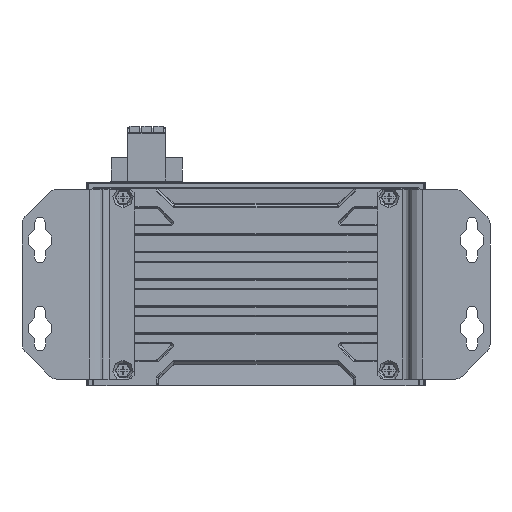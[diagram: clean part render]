
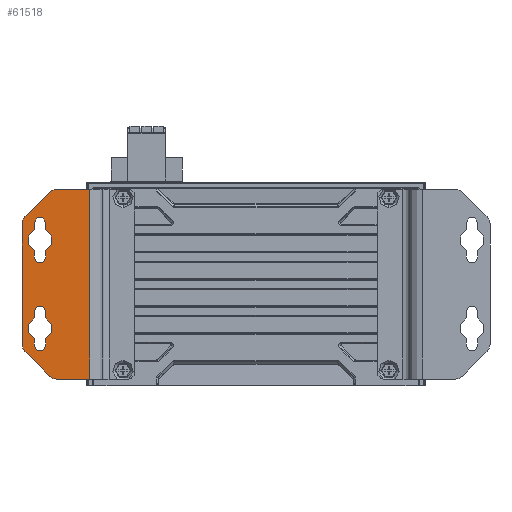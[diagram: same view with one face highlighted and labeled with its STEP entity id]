
A CAD part, front view. The second image highlights one B-rep face of the part: STEP entity #61518.
In plain terms, the highlighted planar face has unit normal (0, -1, 0).
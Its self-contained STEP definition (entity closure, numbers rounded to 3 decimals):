
#49342=DIRECTION('',(0.,0.,1.));
#49343=VECTOR('',#49342,56.);
#49344=CARTESIAN_POINT('',(-49.001,-5.8,-28.));
#49345=LINE('',#49344,#49343);
#49452=DIRECTION('',(1.,0.,0.));
#49453=VECTOR('',#49452,9.757);
#49454=CARTESIAN_POINT('',(-58.757,-5.8,28.));
#49455=LINE('',#49454,#49453);
#49456=CARTESIAN_POINT('',(-58.757,-5.8,-25.));
#49457=DIRECTION('',(0.,1.,0.));
#49458=DIRECTION('',(0.,0.,-1.));
#49459=AXIS2_PLACEMENT_3D('',#49456,#49457,#49458);
#49461=DIRECTION('',(-0.707,0.,0.707));
#49462=VECTOR('',#49461,10.243);
#49463=CARTESIAN_POINT('',(-60.879,-5.8,-27.121));
#49464=LINE('',#49463,#49462);
#49465=CARTESIAN_POINT('',(-66.,-5.8,-17.757));
#49466=DIRECTION('',(0.,1.,0.));
#49467=DIRECTION('',(-0.707,0.,-0.707));
#49468=AXIS2_PLACEMENT_3D('',#49465,#49466,#49467);
#49470=CARTESIAN_POINT('',(-66.,-5.8,17.757));
#49471=DIRECTION('',(0.,1.,0.));
#49472=DIRECTION('',(-1.,0.,0.));
#49473=AXIS2_PLACEMENT_3D('',#49470,#49471,#49472);
#49475=DIRECTION('',(0.707,0.,0.707));
#49476=VECTOR('',#49475,10.243);
#49477=CARTESIAN_POINT('',(-68.121,-5.8,19.879));
#49478=LINE('',#49477,#49476);
#49479=CARTESIAN_POINT('',(-58.757,-5.8,25.));
#49480=DIRECTION('',(0.,1.,0.));
#49481=DIRECTION('',(-0.707,0.,0.707));
#49482=AXIS2_PLACEMENT_3D('',#49479,#49480,#49481);
#49484=CARTESIAN_POINT('',(-63.7,-5.8,8.));
#49485=DIRECTION('',(0.,-1.,0.));
#49486=DIRECTION('',(-1.,0.,0.));
#49487=AXIS2_PLACEMENT_3D('',#49484,#49485,#49486);
#49489=CARTESIAN_POINT('',(-63.7,-5.8,13.));
#49490=DIRECTION('',(0.,-1.,0.));
#49491=DIRECTION('',(0.5,0.,-0.866));
#49492=AXIS2_PLACEMENT_3D('',#49489,#49490,#49491);
#49494=CARTESIAN_POINT('',(-63.7,-5.8,18.));
#49495=DIRECTION('',(0.,-1.,0.));
#49496=DIRECTION('',(1.,0.,0.));
#49497=AXIS2_PLACEMENT_3D('',#49494,#49495,#49496);
#49499=CARTESIAN_POINT('',(-63.7,-5.8,13.));
#49500=DIRECTION('',(0.,-1.,0.));
#49501=DIRECTION('',(-0.5,0.,0.866));
#49502=AXIS2_PLACEMENT_3D('',#49499,#49500,#49501);
#49504=CARTESIAN_POINT('',(-63.7,-5.8,-8.));
#49505=DIRECTION('',(0.,-1.,0.));
#49506=DIRECTION('',(1.,0.,0.));
#49507=AXIS2_PLACEMENT_3D('',#49504,#49505,#49506);
#49509=CARTESIAN_POINT('',(-63.7,-5.8,-13.));
#49510=DIRECTION('',(0.,-1.,0.));
#49511=DIRECTION('',(-0.5,0.,0.866));
#49512=AXIS2_PLACEMENT_3D('',#49509,#49510,#49511);
#49514=CARTESIAN_POINT('',(-63.7,-5.8,-18.));
#49515=DIRECTION('',(0.,-1.,0.));
#49516=DIRECTION('',(-1.,0.,0.));
#49517=AXIS2_PLACEMENT_3D('',#49514,#49515,#49516);
#49519=CARTESIAN_POINT('',(-63.7,-5.8,-13.));
#49520=DIRECTION('',(0.,-1.,0.));
#49521=DIRECTION('',(0.5,0.,-0.866));
#49522=AXIS2_PLACEMENT_3D('',#49519,#49520,#49521);
#49532=DIRECTION('',(-1.,0.,0.));
#49533=VECTOR('',#49532,9.757);
#49534=CARTESIAN_POINT('',(-49.001,-5.8,-28.));
#49535=LINE('',#49534,#49533);
#49556=DIRECTION('',(0.,0.,1.));
#49557=VECTOR('',#49556,35.515);
#49558=CARTESIAN_POINT('',(-69.,-5.8,-17.757));
#49559=LINE('',#49558,#49557);
#49580=DIRECTION('',(0.,0.,1.));
#49581=VECTOR('',#49580,1.969);
#49582=CARTESIAN_POINT('',(-65.45,-5.8,8.));
#49583=LINE('',#49582,#49581);
#49596=DIRECTION('',(0.,0.,-1.));
#49597=VECTOR('',#49596,1.969);
#49598=CARTESIAN_POINT('',(-61.95,-5.8,9.969));
#49599=LINE('',#49598,#49597);
#49612=DIRECTION('',(0.,0.,-1.));
#49613=VECTOR('',#49612,1.969);
#49614=CARTESIAN_POINT('',(-61.95,-5.8,18.));
#49615=LINE('',#49614,#49613);
#49628=DIRECTION('',(0.,0.,1.));
#49629=VECTOR('',#49628,1.969);
#49630=CARTESIAN_POINT('',(-65.45,-5.8,16.031));
#49631=LINE('',#49630,#49629);
#49652=DIRECTION('',(0.,0.,1.));
#49653=VECTOR('',#49652,1.969);
#49654=CARTESIAN_POINT('',(-65.45,-5.8,-9.969));
#49655=LINE('',#49654,#49653);
#49668=DIRECTION('',(0.,0.,1.));
#49669=VECTOR('',#49668,1.969);
#49670=CARTESIAN_POINT('',(-65.45,-5.8,-18.));
#49671=LINE('',#49670,#49669);
#49684=DIRECTION('',(0.,0.,-1.));
#49685=VECTOR('',#49684,1.969);
#49686=CARTESIAN_POINT('',(-61.95,-5.8,-16.031));
#49687=LINE('',#49686,#49685);
#49700=DIRECTION('',(0.,0.,-1.));
#49701=VECTOR('',#49700,1.969);
#49702=CARTESIAN_POINT('',(-61.95,-5.8,-8.));
#49703=LINE('',#49702,#49701);
#54161=CARTESIAN_POINT('',(-49.001,-5.8,-28.));
#54162=CARTESIAN_POINT('',(-49.001,-5.8,28.));
#54163=VERTEX_POINT('',#54161);
#54164=VERTEX_POINT('',#54162);
#54165=CARTESIAN_POINT('',(-58.757,-5.8,28.));
#54166=VERTEX_POINT('',#54165);
#54167=CARTESIAN_POINT('',(-60.879,-5.8,27.121));
#54168=VERTEX_POINT('',#54167);
#54169=CARTESIAN_POINT('',(-68.121,-5.8,19.879));
#54170=VERTEX_POINT('',#54169);
#54171=CARTESIAN_POINT('',(-69.,-5.8,17.757));
#54172=VERTEX_POINT('',#54171);
#54173=CARTESIAN_POINT('',(-69.,-5.8,-17.757));
#54174=VERTEX_POINT('',#54173);
#54175=CARTESIAN_POINT('',(-68.121,-5.8,-19.879));
#54176=VERTEX_POINT('',#54175);
#54177=CARTESIAN_POINT('',(-60.879,-5.8,-27.121));
#54178=VERTEX_POINT('',#54177);
#54179=CARTESIAN_POINT('',(-58.757,-5.8,-28.));
#54180=VERTEX_POINT('',#54179);
#54181=CARTESIAN_POINT('',(-65.45,-5.8,8.));
#54182=CARTESIAN_POINT('',(-65.45,-5.8,9.969));
#54183=VERTEX_POINT('',#54181);
#54184=VERTEX_POINT('',#54182);
#54185=CARTESIAN_POINT('',(-65.45,-5.8,16.031));
#54186=VERTEX_POINT('',#54185);
#54187=CARTESIAN_POINT('',(-65.45,-5.8,18.));
#54188=VERTEX_POINT('',#54187);
#54189=CARTESIAN_POINT('',(-61.95,-5.8,18.));
#54190=VERTEX_POINT('',#54189);
#54191=CARTESIAN_POINT('',(-61.95,-5.8,16.031));
#54192=VERTEX_POINT('',#54191);
#54193=CARTESIAN_POINT('',(-61.95,-5.8,9.969));
#54194=VERTEX_POINT('',#54193);
#54195=CARTESIAN_POINT('',(-61.95,-5.8,8.));
#54196=VERTEX_POINT('',#54195);
#54197=CARTESIAN_POINT('',(-61.95,-5.8,-8.));
#54198=CARTESIAN_POINT('',(-65.45,-5.8,-8.));
#54199=VERTEX_POINT('',#54197);
#54200=VERTEX_POINT('',#54198);
#54201=CARTESIAN_POINT('',(-61.95,-5.8,-9.969));
#54202=VERTEX_POINT('',#54201);
#54203=CARTESIAN_POINT('',(-61.95,-5.8,-16.031));
#54204=VERTEX_POINT('',#54203);
#54205=CARTESIAN_POINT('',(-61.95,-5.8,-18.));
#54206=VERTEX_POINT('',#54205);
#54207=CARTESIAN_POINT('',(-65.45,-5.8,-18.));
#54208=VERTEX_POINT('',#54207);
#54209=CARTESIAN_POINT('',(-65.45,-5.8,-16.031));
#54210=VERTEX_POINT('',#54209);
#54211=CARTESIAN_POINT('',(-65.45,-5.8,-9.969));
#54212=VERTEX_POINT('',#54211);
#61457=CARTESIAN_POINT('',(-59.,-5.8,0.));
#61458=DIRECTION('',(0.,1.,0.));
#61459=DIRECTION('',(-1.,0.,0.));
#61460=AXIS2_PLACEMENT_3D('',#61457,#61458,#61459);
#61461=PLANE('',#61460);
#61462=ORIENTED_EDGE('',*,*,#61272,.F.);
#61464=ORIENTED_EDGE('',*,*,#61463,.T.);
#61466=ORIENTED_EDGE('',*,*,#61465,.T.);
#61468=ORIENTED_EDGE('',*,*,#61467,.T.);
#61470=ORIENTED_EDGE('',*,*,#61469,.T.);
#61472=ORIENTED_EDGE('',*,*,#61471,.T.);
#61474=ORIENTED_EDGE('',*,*,#61473,.T.);
#61476=ORIENTED_EDGE('',*,*,#61475,.T.);
#61478=ORIENTED_EDGE('',*,*,#61477,.T.);
#61479=ORIENTED_EDGE('',*,*,#61442,.T.);
#61480=EDGE_LOOP('',(#61462,#61464,#61466,#61468,#61470,#61472,#61474,#61476,
#61478,#61479));
#61481=FACE_OUTER_BOUND('',#61480,.F.);
#61483=ORIENTED_EDGE('',*,*,#61482,.F.);
#61485=ORIENTED_EDGE('',*,*,#61484,.T.);
#61487=ORIENTED_EDGE('',*,*,#61486,.F.);
#61489=ORIENTED_EDGE('',*,*,#61488,.T.);
#61491=ORIENTED_EDGE('',*,*,#61490,.F.);
#61493=ORIENTED_EDGE('',*,*,#61492,.T.);
#61495=ORIENTED_EDGE('',*,*,#61494,.F.);
#61497=ORIENTED_EDGE('',*,*,#61496,.T.);
#61498=EDGE_LOOP('',(#61483,#61485,#61487,#61489,#61491,#61493,#61495,#61497));
#61499=FACE_BOUND('',#61498,.F.);
#61501=ORIENTED_EDGE('',*,*,#61500,.T.);
#61503=ORIENTED_EDGE('',*,*,#61502,.F.);
#61505=ORIENTED_EDGE('',*,*,#61504,.T.);
#61507=ORIENTED_EDGE('',*,*,#61506,.F.);
#61509=ORIENTED_EDGE('',*,*,#61508,.T.);
#61511=ORIENTED_EDGE('',*,*,#61510,.F.);
#61513=ORIENTED_EDGE('',*,*,#61512,.T.);
#61515=ORIENTED_EDGE('',*,*,#61514,.F.);
#61516=EDGE_LOOP('',(#61501,#61503,#61505,#61507,#61509,#61511,#61513,#61515));
#61517=FACE_BOUND('',#61516,.F.);
#49460=CIRCLE('',#49459,3.);
#49469=CIRCLE('',#49468,3.);
#49474=CIRCLE('',#49473,3.);
#49483=CIRCLE('',#49482,3.);
#49488=CIRCLE('',#49487,1.75);
#49493=CIRCLE('',#49492,3.5);
#49498=CIRCLE('',#49497,1.75);
#49503=CIRCLE('',#49502,3.5);
#49508=CIRCLE('',#49507,1.75);
#49513=CIRCLE('',#49512,3.5);
#49518=CIRCLE('',#49517,1.75);
#49523=CIRCLE('',#49522,3.5);
#61272=EDGE_CURVE('',#54163,#54164,#49345,.T.);
#61442=EDGE_CURVE('',#54166,#54164,#49455,.T.);
#61463=EDGE_CURVE('',#54163,#54180,#49535,.T.);
#61465=EDGE_CURVE('',#54180,#54178,#49460,.T.);
#61467=EDGE_CURVE('',#54178,#54176,#49464,.T.);
#61469=EDGE_CURVE('',#54176,#54174,#49469,.T.);
#61471=EDGE_CURVE('',#54174,#54172,#49559,.T.);
#61473=EDGE_CURVE('',#54172,#54170,#49474,.T.);
#61475=EDGE_CURVE('',#54170,#54168,#49478,.T.);
#61477=EDGE_CURVE('',#54168,#54166,#49483,.T.);
#61482=EDGE_CURVE('',#54183,#54184,#49583,.T.);
#61484=EDGE_CURVE('',#54183,#54196,#49488,.T.);
#61486=EDGE_CURVE('',#54194,#54196,#49599,.T.);
#61488=EDGE_CURVE('',#54194,#54192,#49493,.T.);
#61490=EDGE_CURVE('',#54190,#54192,#49615,.T.);
#61492=EDGE_CURVE('',#54190,#54188,#49498,.T.);
#61494=EDGE_CURVE('',#54186,#54188,#49631,.T.);
#61496=EDGE_CURVE('',#54186,#54184,#49503,.T.);
#61500=EDGE_CURVE('',#54199,#54200,#49508,.T.);
#61502=EDGE_CURVE('',#54212,#54200,#49655,.T.);
#61504=EDGE_CURVE('',#54212,#54210,#49513,.T.);
#61506=EDGE_CURVE('',#54208,#54210,#49671,.T.);
#61508=EDGE_CURVE('',#54208,#54206,#49518,.T.);
#61510=EDGE_CURVE('',#54204,#54206,#49687,.T.);
#61512=EDGE_CURVE('',#54204,#54202,#49523,.T.);
#61514=EDGE_CURVE('',#54199,#54202,#49703,.T.);
#61518=ADVANCED_FACE('',(#61481,#61499,#61517),#61461,.F.);
